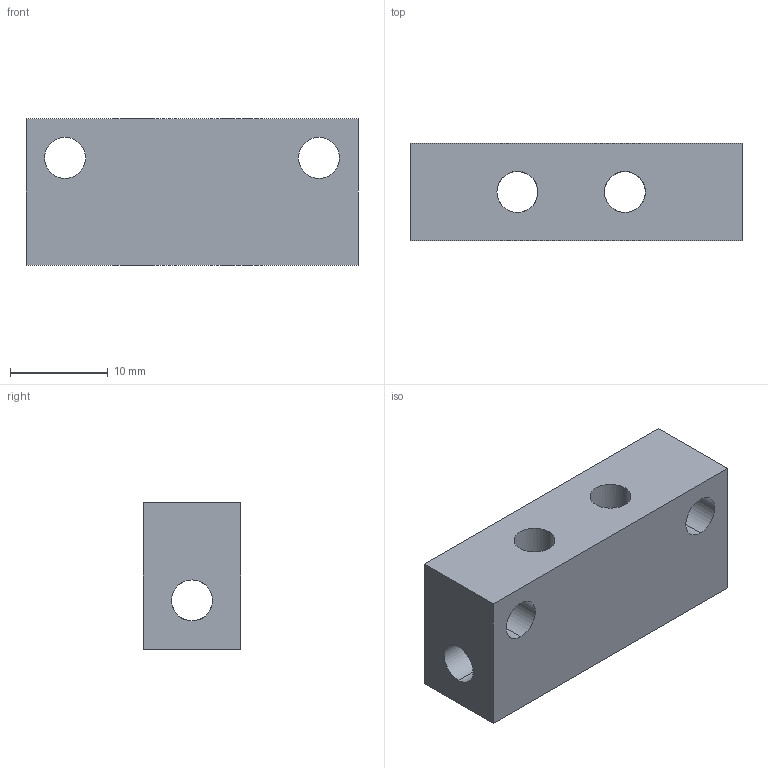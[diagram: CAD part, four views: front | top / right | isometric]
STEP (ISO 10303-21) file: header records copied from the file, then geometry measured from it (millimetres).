
FILE_DESCRIPTION (( 'STEP AP214' ), '1' );
FILE_NAME ('SMB-06M5.STEP', '2019-11-06T02:44:20', ( '微软用户' ), ( '微软中国' ), 'SwSTEP 2.0', 'SolidWorks 2016', '' );
FILE_SCHEMA (( 'AUTOMOTIVE_DESIGN' ));
Length unit declared in the file: millimetre
Products named in the file (1): SMB-06M5
Bounding box: 34 x 10 x 15 mm (x, y, z)
Volume: 4035 mm3; surface area: 2828.7 mm2
Topology: 1 solids, 1 shells, 24 faces, 66 edges, 40 vertices
Faces by surface type: cylinder 18, plane 6
Entity records: 1014 total; most frequent: CARTESIAN_POINT 179, ORIENTED_EDGE 132, DIRECTION 120, EDGE_CURVE 66, AXIS2_PLACEMENT_3D 45, VERTEX_POINT 40, EDGE_LOOP 34, VECTOR 30
